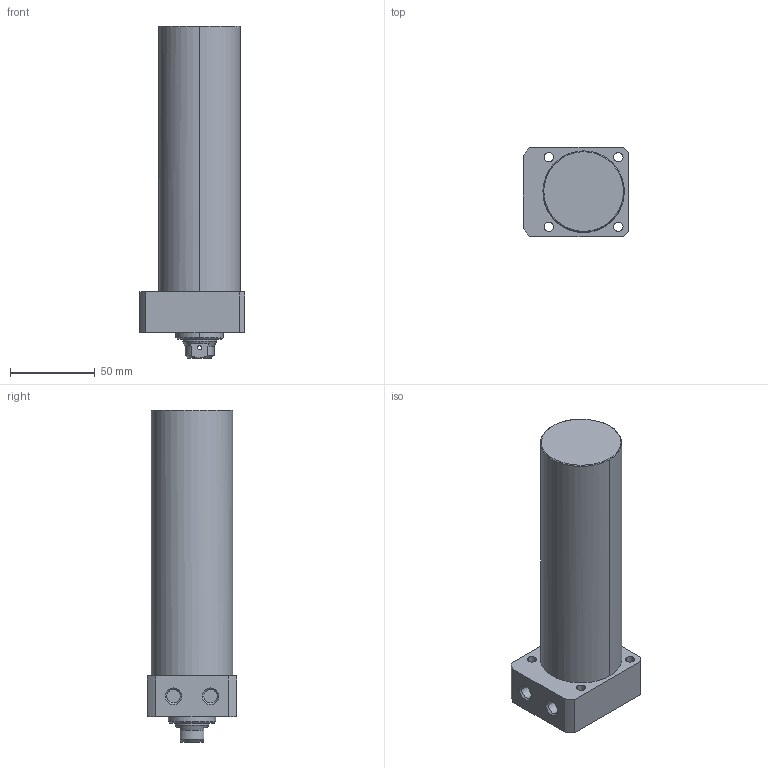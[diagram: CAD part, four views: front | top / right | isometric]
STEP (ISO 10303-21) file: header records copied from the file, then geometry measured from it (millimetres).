
FILE_DESCRIPTION((' '),'2;1');
FILE_NAME( 'TLLR-048CB-130.STEP.stp', '2025-10-24T16:34:34', (' '), ('--- Datakit www.datakit.com---'), ' Datakit CrossCadWare V2024.1 Dec 21 2023', 'Mastercam 2025', ' ');
FILE_SCHEMA(('AUTOMOTIVE_DESIGN { 1 0 10303 214 1 1 1 1 }'));
Length unit declared in the file: millimetre
Products named in the file (1): TLLR-048CB-130
Bounding box: 62 x 53 x 196 mm (x, y, z)
Volume: 362414.7 mm3; surface area: 39077.1 mm2
Topology: 1 solids, 1 shells, 67 faces, 197 edges, 136 vertices
Faces by surface type: cylinder 32, plane 19, cone 14, torus 2
Entity records: 3066 total; most frequent: CARTESIAN_POINT 1147, DIRECTION 426, ORIENTED_EDGE 390, EDGE_CURVE 195, AXIS2_PLACEMENT_3D 179, VERTEX_POINT 136, CIRCLE 111, EDGE_LOOP 85
